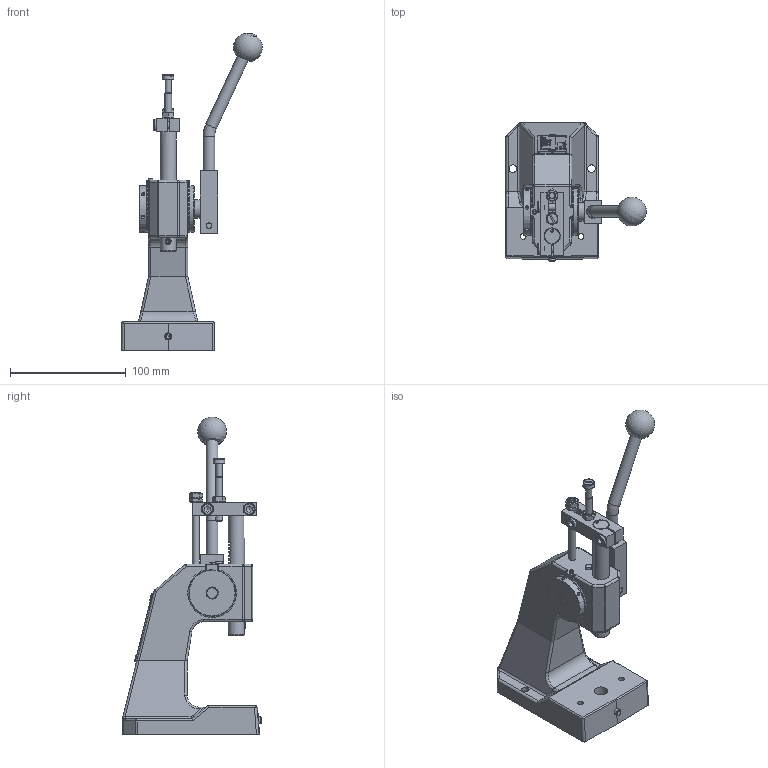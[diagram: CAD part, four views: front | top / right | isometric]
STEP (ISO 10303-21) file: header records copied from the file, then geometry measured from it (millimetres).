
FILE_DESCRIPTION(/* description */ ('Handhebel Presse HP 40'),/* implementation_level */ '2;1');
FILE_NAME(/* name */ 'B:\02_CAD_oeffentlich\CAD_3D_oeffentlich_step\Zahnstangen Presse\HP_40.stp',/* time_stamp */ '2017-01-12T09:05:29+01:00',/* author */ ('Finsterle'),/* organization */ (''),/* preprocessor_version */ 'ST-DEVELOPER v16.1',/* originating_system */ 'Autodesk Inventor 2016',/* authorisation */ '');
FILE_SCHEMA (('AUTOMOTIVE_DESIGN { 1 0 10303 214 3 1 1 }'));
Products named in the file (1): HBF-000694_V
Bounding box: 121.18 x 120.27 x 274.37 mm (x, y, z)
Volume: 544113.8 mm3; surface area: 77507.3 mm2
Topology: 1 solids, 1 shells, 2517 faces, 6720 edges, 4428 vertices
Faces by surface type: plane 1403, bspline 909, cylinder 126, cone 45, torus 19, sphere 15
Full cylindrical faces by diameter (mm): 2.3 x1, 3 x6, 4 x1, 4.917 x6, 5 x2, 5.386 x1, 6 x8, 6.1 x1, 6.5 x6, 7 x1, 7.6 x1, 9.98 x2, 10 x5, 10.5 x3, 12 x1, 14 x2, 16 x1, 40 x2
Entity records: 87803 total; most frequent: CARTESIAN_POINT 29340, ORIENTED_EDGE 13138, DIRECTION 8232, EDGE_CURVE 6567, VERTEX_POINT 4387, LINE 4310, VECTOR 4310, EDGE_LOOP 2874
